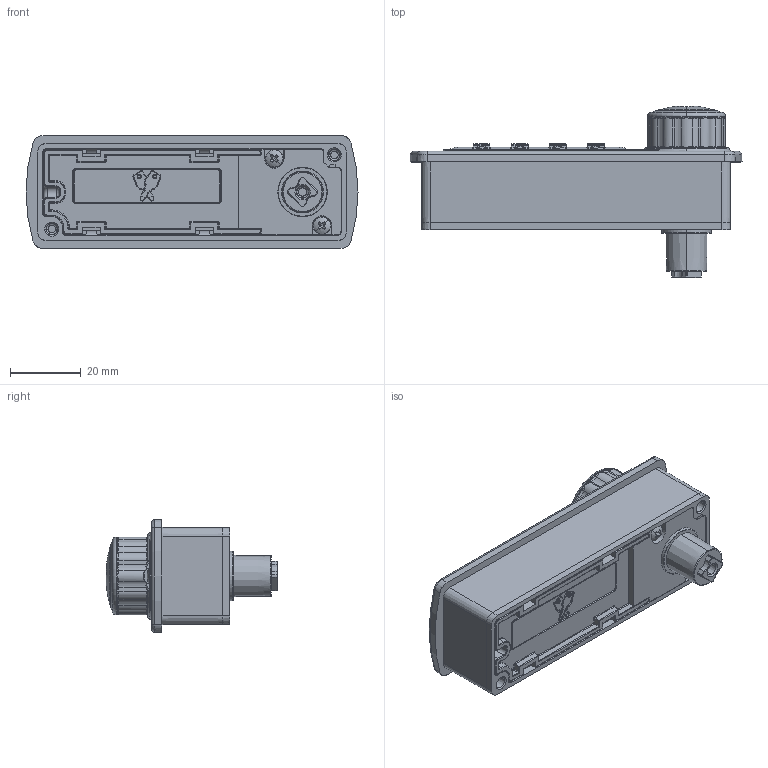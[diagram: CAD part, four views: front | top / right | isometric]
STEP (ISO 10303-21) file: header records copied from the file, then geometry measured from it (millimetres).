
FILE_DESCRIPTION (( 'STEP AP214' ), '1' );
FILE_NAME ('2700 De-Feature.STEP', '2017-08-29T07:13:15', ( '' ), ( '' ), 'SwSTEP 2.0', 'SolidWorks 2017', '' );
FILE_SCHEMA (( 'AUTOMOTIVE_DESIGN' ));
Length unit declared in the file: millimetre
Products named in the file (11): 8580172; pan head cross recess screw_bsi_BS EN ISO 7045 - M2.5 x 6 - Z - 6N; Handle MkII; 8401076; 8401085; 9235426; 9235427; 9235418; 8401074; 2700 De-Feature; 8401075
Assembly tree (13 placements, depth 2):
  Handle MkII
  2700 De-Feature
    8401074
    8401075
    8401076
    8580172
    9235418
    8401085
    9235426
    pan head cross recess screw_bsi_BS EN ISO 7045 - M2.5 x 6 - Z - 6N  x2
    9235427  x4
Bounding box: 94 x 48.61 x 32 mm (x, y, z)
Volume: 26287.8 mm3; surface area: 30602.9 mm2
Topology: 13 solids, 13 shells, 2843 faces, 7242 edges, 4249 vertices
Faces by surface type: cylinder 862, plane 830, bspline 676, torus 343, cone 96, sphere 36
Entity records: 62475 total; most frequent: CARTESIAN_POINT 22591, ORIENTED_EDGE 8326, DIRECTION 7543, EDGE_CURVE 4163, AXIS2_PLACEMENT_3D 2860, VERTEX_POINT 2515, VECTOR 1823, LINE 1823
